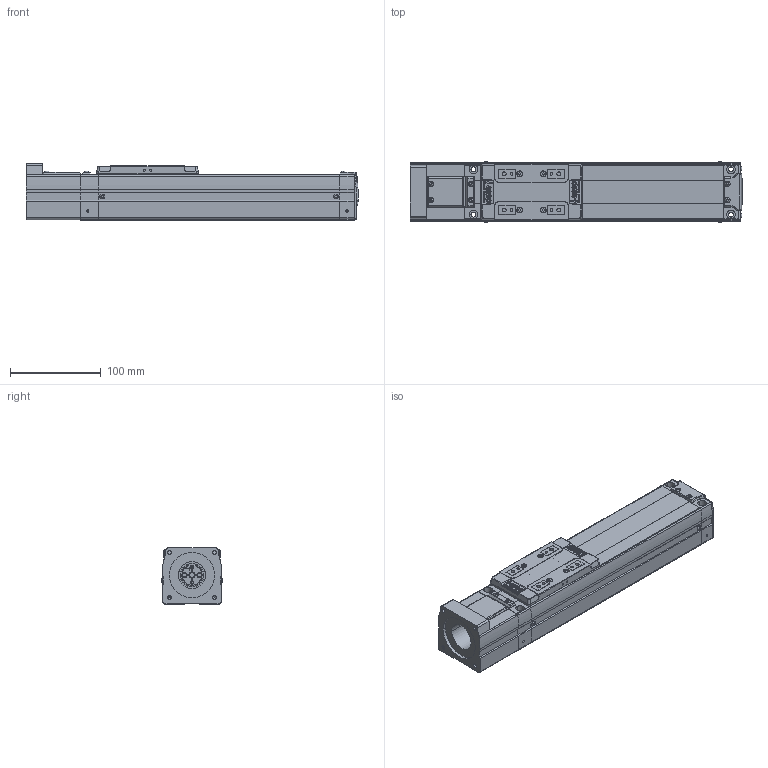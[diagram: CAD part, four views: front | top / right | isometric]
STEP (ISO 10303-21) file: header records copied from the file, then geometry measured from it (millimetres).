
FILE_DESCRIPTION(('STEP AP203'),'1');
FILE_NAME('Z:/Web/3D/SAN65/2012.ver/STP/150/SAN65ㅁㅁ-150S.stp','2014-06-13T05:48:16',(' '),(' '),'Spatial InterOp 3D',' ',' ');
FILE_SCHEMA(('CONFIG_CONTROL_DESIGN'));
Length unit declared in the file: millimetre
Products named in the file (56): 1; 2; 3; 4; 5; 6; 7; 8; 9; 10; 11; 12; 13; 14; 15; 16; 17; 18; 19; 20; 21; 22; 23; 24; 25; 26; 27; 28; 29; 30; 31; 32; 33; 34; 35; 36; 37; 38; 39; 40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
Bounding box: 366.15 x 67.13 x 62 mm (x, y, z)
Volume: 1161978.9 mm3; surface area: 183434.3 mm2
Topology: 56 solids, 56 shells, 2232 faces, 5875 edges, 3810 vertices
Faces by surface type: plane 1036, cylinder 828, cone 278, sphere 36, bspline 28, torus 20, extrusion 6
Full cylindrical faces by diameter (mm): 2.132 x1, 3.5 x2, 6 x2
Entity records: 75183 total; most frequent: CARTESIAN_POINT 15857, DIRECTION 12368, ORIENTED_EDGE 11634, EDGE_CURVE 5817, AXIS2_PLACEMENT_3D 4521, VERTEX_POINT 3809, VECTOR 3326, LINE 3320
